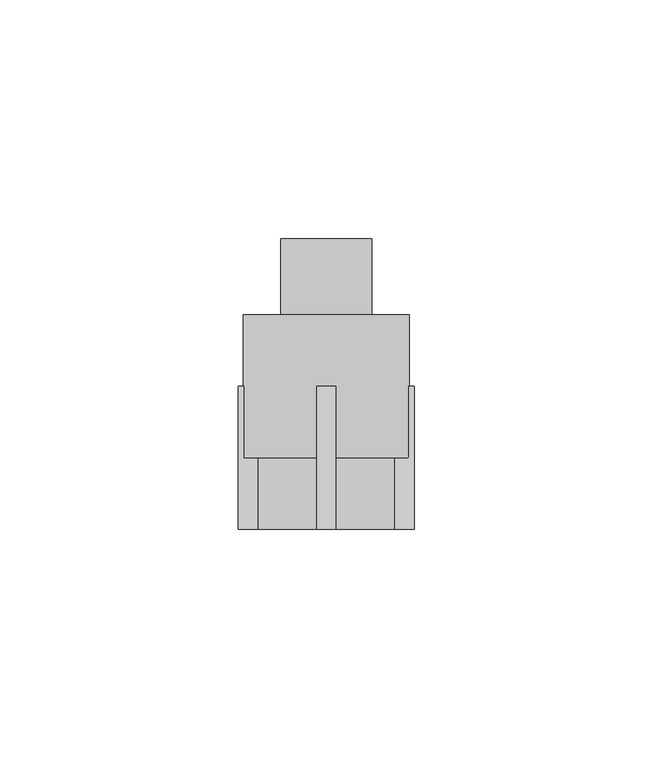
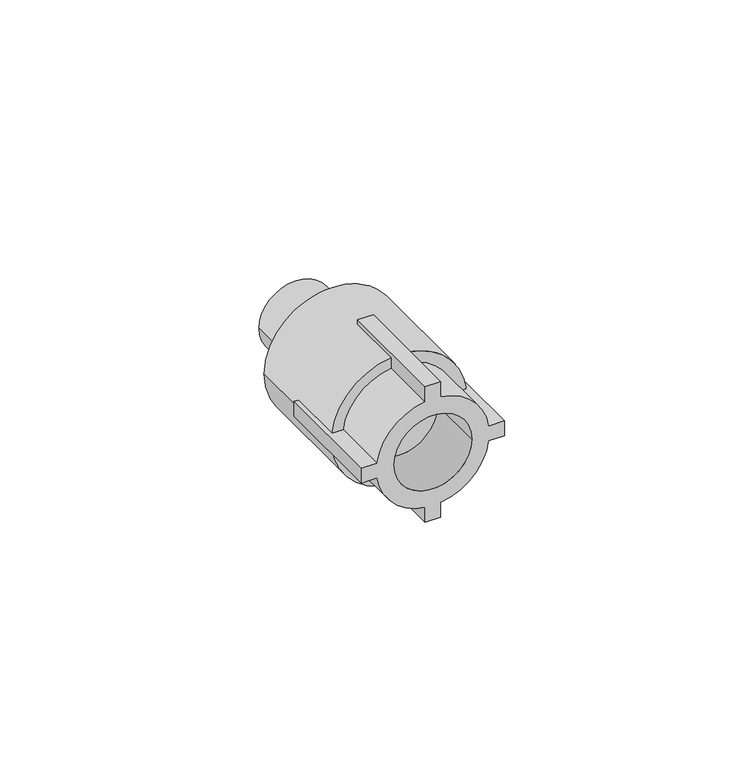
"""IFC4 building model written with IfcOpenShell, lengths in millimetres: pipe fitting geometry, EGB_VASEN_ PPR_Entronque rosca macho WXR101 : Entronque rosca macho WXR101."""

from ifc_helpers import new_model, si_unit, point, frame, origin, origin_2d, place, context, project, spatial, polyline, circle_curve, trimmed, segment, composite_curve, outline, extrude, source, transform, mapped, element, save
from ifc_brep_helpers import plane_surface, cylinder_surface, revolved_surface, advanced_brep


def pipe_fitting_2b10a2c7(model_context):
    return source(origin(), model_context, "Body", "SolidModel", [
        advanced_brep(
        [(2.0, -15.0, 18.4), (-2.0, -15.0, 18.4), (-2.0, -15.0, 14.3614066), (-14.3614066, -15.0, 2.0), (-18.4, -15.0, 2.0), (-18.4, -15.0, -2.0), (-14.3614066, -15.0, -2.0), (-2.0, -15.0, -14.3614066), (-2.0, -15.0, -18.4), (2.0, -15.0, -18.4), (2.0, -15.0, -14.3614066), (14.3614066, -15.0, -2.0), (18.4, -15.0, -2.0), (18.4, -15.0, 2.0), (14.3614066, -15.0, 2.0), (2.0, -15.0, 14.3614066), (-10.0, -15.0, 0.0), (10.0, -15.0, 0.0), (-2.0, 15.0, 18.4), (2.0, 15.0, 18.4), (2.0, 15.0, 17.2846753), (-2.0, 15.0, 17.2846753), (2.0, 15.0, -18.4), (-2.0, 15.0, -18.4), (-2.0, 15.0, -17.2846753), (2.0, 15.0, -17.2846753), (18.4, 15.0, 2.0), (18.4, 15.0, -2.0), (17.2846753, 15.0, -2.0), (17.4, 15.0, 0.0), (17.2846753, 15.0, 2.0), (-18.4, 15.0, -2.0), (-18.4, 15.0, 2.0), (-17.2846753, 15.0, 2.0), (-17.4, 15.0, 0.0), (-17.2846753, 15.0, -2.0), (2.0, 0.0, 14.3614066), (2.0, 0.0, 17.2846753), (-2.0, 0.0, 17.2846753), (-2.0, 0.0, 14.3614066), (2.0, 0.0, -17.2846753), (2.0, 0.0, -14.3614066), (-2.0, 0.0, -14.3614066), (-2.0, 0.0, -17.2846753), (14.3614066, 0.0, -2.0), (17.2846753, 0.0, -2.0), (17.2846753, 0.0, 2.0), (14.3614066, 0.0, 2.0), (-17.2846753, 0.0, -2.0), (-14.3614066, 0.0, -2.0), (-14.3614066, 0.0, 2.0), (-17.2846753, 0.0, 2.0), (-10.0, 0.0, 0.0), (10.0, 0.0, 0.0), (-17.4, 30.0, 0.0), (17.4, 30.0, 0.0)],
        [
            (0, 1),
            (1, 2),
            (2, 3, circle_curve(frame((0.0, -15.0, 0.0), z_axis=(0.0, -1.0, 0.0), x_axis=(1.0, 0.0, 0.0)), 14.5)),
            (3, 4),
            (4, 5),
            (5, 6),
            (6, 7, circle_curve(frame((0.0, -15.0, 0.0), z_axis=(0.0, -1.0, 0.0), x_axis=(1.0, 0.0, 0.0)), 14.5)),
            (7, 8),
            (8, 9),
            (9, 10),
            (10, 11, circle_curve(frame((0.0, -15.0, 0.0), z_axis=(0.0, -1.0, 0.0), x_axis=(1.0, 0.0, 0.0)), 14.5)),
            (11, 12),
            (12, 13),
            (13, 14),
            (14, 15, circle_curve(frame((0.0, -15.0, 0.0), z_axis=(0.0, -1.0, 0.0), x_axis=(1.0, 0.0, 0.0)), 14.5)),
            (15, 0),
            (16, 17, circle_curve(frame((0.0, -15.0, 0.0), z_axis=(0.0, 1.0, 0.0), x_axis=(1.0, 0.0, 0.0)), 10.0)),
            (17, 16, circle_curve(frame((0.0, -15.0, 0.0), z_axis=(0.0, 1.0, 0.0), x_axis=(1.0, 0.0, 0.0)), 10.0)),
            (18, 19),
            (19, 20),
            (20, 21, circle_curve(frame((0.0, 15.0, 0.0), z_axis=(0.0, -1.0, 0.0), x_axis=(1.0, 0.0, 0.0)), 17.4)),
            (21, 18),
            (22, 23),
            (23, 24),
            (24, 25, circle_curve(frame((0.0, 15.0, 0.0), z_axis=(0.0, -1.0, 0.0), x_axis=(1.0, 0.0, 0.0)), 17.4)),
            (25, 22),
            (26, 27),
            (27, 28),
            (28, 29, circle_curve(frame((0.0, 15.0, 0.0), z_axis=(0.0, -1.0, 0.0), x_axis=(1.0, 0.0, 0.0)), 17.4)),
            (29, 30, circle_curve(frame((0.0, 15.0, 0.0), z_axis=(0.0, -1.0, 0.0), x_axis=(1.0, 0.0, 0.0)), 17.4)),
            (30, 26),
            (31, 32),
            (32, 33),
            (33, 34, circle_curve(frame((0.0, 15.0, 0.0), z_axis=(0.0, -1.0, 0.0), x_axis=(1.0, 0.0, 0.0)), 17.4)),
            (34, 35, circle_curve(frame((0.0, 15.0, 0.0), z_axis=(0.0, -1.0, 0.0), x_axis=(1.0, 0.0, 0.0)), 17.4)),
            (35, 31),
            (19, 0),
            (15, 36),
            (36, 37),
            (37, 20),
            (18, 1),
            (21, 38),
            (38, 39),
            (39, 2),
            (8, 23),
            (22, 9),
            (25, 40),
            (40, 41),
            (41, 10),
            (7, 42),
            (42, 43),
            (43, 24),
            (27, 12),
            (11, 44),
            (44, 45),
            (45, 28),
            (26, 13),
            (30, 46),
            (46, 47),
            (47, 14),
            (5, 31),
            (35, 48),
            (48, 49),
            (49, 6),
            (32, 4),
            (3, 50),
            (50, 51),
            (51, 33),
            (49, 42, circle_curve(frame((0.0, 0.0, 0.0), z_axis=(0.0, -1.0, 0.0), x_axis=(1.0, 0.0, 0.0)), 14.5)),
            (41, 44, circle_curve(frame((0.0, 0.0, 0.0), z_axis=(0.0, -1.0, 0.0), x_axis=(1.0, 0.0, 0.0)), 14.5)),
            (39, 50, circle_curve(frame((0.0, 0.0, 0.0), z_axis=(0.0, -1.0, 0.0), x_axis=(1.0, 0.0, 0.0)), 14.5)),
            (47, 36, circle_curve(frame((0.0, 0.0, 0.0), z_axis=(0.0, -1.0, 0.0), x_axis=(1.0, 0.0, 0.0)), 14.5)),
            (16, 52),
            (52, 53, circle_curve(frame((0.0, 0.0, 0.0), z_axis=(0.0, 1.0, 0.0), x_axis=(1.0, 0.0, 0.0)), 10.0)),
            (53, 17),
            (53, 52, circle_curve(frame((0.0, 0.0, 0.0), z_axis=(0.0, 1.0, 0.0), x_axis=(1.0, 0.0, 0.0)), 10.0)),
            (40, 45, circle_curve(frame((0.0, 0.0, 0.0), z_axis=(0.0, -1.0, 0.0), x_axis=(1.0, 0.0, 0.0)), 17.4)),
            (48, 43, circle_curve(frame((0.0, 0.0, 0.0), z_axis=(0.0, -1.0, 0.0), x_axis=(1.0, 0.0, 0.0)), 17.4)),
            (46, 37, circle_curve(frame((0.0, 0.0, 0.0), z_axis=(0.0, -1.0, 0.0), x_axis=(1.0, 0.0, 0.0)), 17.4)),
            (38, 51, circle_curve(frame((0.0, 0.0, 0.0), z_axis=(0.0, -1.0, 0.0), x_axis=(1.0, 0.0, 0.0)), 17.4)),
            (54, 55, circle_curve(frame((0.0, 30.0, 0.0), z_axis=(0.0, 1.0, 0.0), x_axis=(1.0, 0.0, 0.0)), 17.4)),
            (55, 54, circle_curve(frame((0.0, 30.0, 0.0), z_axis=(0.0, 1.0, 0.0), x_axis=(1.0, 0.0, 0.0)), 17.4)),
            (55, 29),
            (34, 54),
        ],
        [
            plane_surface(frame((0.0, -15.0, 0.0), z_axis=(0.0, -1.0, 0.0), x_axis=(0.0, 0.0, 1.0))),
            plane_surface(frame((0.0, 15.0, 0.0), z_axis=(0.0, 1.0, 0.0), x_axis=(0.0, 0.0, 1.0))),
            plane_surface(frame((2.0, -15.0, 13.5), z_axis=(1.0, 0.0, 0.0), x_axis=(0.0, 1.0, 0.0))),
            plane_surface(frame((2.0, -15.0, 18.4), z_axis=(0.0, 0.0, 1.0), x_axis=(0.0, 1.0, 0.0))),
            plane_surface(frame((-2.0, -15.0, 18.4), z_axis=(-1.0, 0.0, 0.0), x_axis=(0.0, 1.0, 0.0))),
            plane_surface(frame((-2.0, -15.0, -18.4), z_axis=(0.0, 0.0, -1.0), x_axis=(0.0, 1.0, 0.0))),
            plane_surface(frame((2.0, -15.0, -18.4), z_axis=(1.0, 0.0, 0.0), x_axis=(0.0, 1.0, 0.0))),
            plane_surface(frame((-2.0, -15.0, -13.5), z_axis=(-1.0, 0.0, 0.0), x_axis=(0.0, 1.0, 0.0))),
            plane_surface(frame((13.5, -15.0, -2.0), z_axis=(0.0, 0.0, -1.0), x_axis=(0.0, 1.0, 0.0))),
            plane_surface(frame((18.4, -15.0, -2.0), z_axis=(1.0, 0.0, 0.0), x_axis=(0.0, 1.0, 0.0))),
            plane_surface(frame((18.4, -15.0, 2.0), z_axis=(0.0, 0.0, 1.0), x_axis=(0.0, 1.0, 0.0))),
            plane_surface(frame((-18.4, -15.0, -2.0), z_axis=(0.0, 0.0, -1.0), x_axis=(0.0, 1.0, 0.0))),
            plane_surface(frame((-13.5, -15.0, 2.0), z_axis=(0.0, 0.0, 1.0), x_axis=(0.0, 1.0, 0.0))),
            plane_surface(frame((-18.4, -15.0, 2.0), z_axis=(-1.0, 0.0, 0.0), x_axis=(0.0, 1.0, 0.0))),
            cylinder_surface(frame((0.0, 0.0, 0.0), z_axis=(0.0, -1.0, 0.0), x_axis=(1.0, 0.0, 0.0)), 14.5),
            revolved_surface(polyline([(10.0, 0.0, 0.0), (10.0, -15.0, 0.0)]), (0.0, 0.0, 0.0), (0.0, 1.0, 0.0)),
            plane_surface(frame((17.4, 0.0, 0.0), z_axis=(0.0, -1.0, 0.0), x_axis=(0.0, 0.0, 1.0))),
            plane_surface(frame((17.4, 30.0, 0.0), z_axis=(0.0, 1.0, 0.0), x_axis=(0.0, 0.0, -1.0))),
            cylinder_surface(frame((0.0, 30.0, 0.0), z_axis=(0.0, -1.0, 0.0), x_axis=(1.0, 0.0, 0.0)), 17.4),
        ],
        [
            (0, [[1, 2, 3, 4, 5, 6, 7, 8, 9, 10, 11, 12, 13, 14, 15, 16], [17, 18]]),
            (1, [[19, 20, 21, 22]]),
            (1, [[23, 24, 25, 26]]),
            (1, [[27, 28, 29, 30, 31]]),
            (1, [[32, 33, 34, 35, 36]]),
            (2, [[37, -16, 38, 39, 40, -20]]),
            (3, [[-1, -37, -19, 41]]),
            (4, [[-41, -22, 42, 43, 44, -2]]),
            (5, [[-9, 45, -23, 46]]),
            (6, [[-46, -26, 47, 48, 49, -10]]),
            (7, [[-45, -8, 50, 51, 52, -24]]),
            (8, [[53, -12, 54, 55, 56, -28]]),
            (9, [[-13, -53, -27, 57]]),
            (10, [[-57, -31, 58, 59, 60, -14]]),
            (11, [[61, -36, 62, 63, 64, -6]]),
            (12, [[65, -4, 66, 67, 68, -33]]),
            (13, [[-5, -65, -32, -61]]),
            (14, [[-7, -64, 69, -50]]),
            (14, [[-11, -49, 70, -54]]),
            (14, [[-3, -44, 71, -66]]),
            (14, [[-15, -60, 72, -38]]),
            (15, [[-17, 73, 74, 75]]),
            (15, [[-18, -75, 76, -73]]),
            (16, [[-74, -76]]),
            (16, [[77, -55, -70, -48]]),
            (16, [[78, -51, -69, -63]]),
            (16, [[79, -39, -72, -59]]),
            (16, [[80, -67, -71, -43]]),
            (17, [[81, 82]]),
            (18, [[-82, 83, -29, -56, -77, -47, -25, -52, -78, -62, -35, 84]]),
            (18, [[-81, -84, -34, -68, -80, -42, -21, -40, -79, -58, -30, -83]]),
        ],
    ),
        extrude(outline(composite_curve([segment(trimmed(circle_curve(origin_2d(), 9.525), [point((0.0, -9.525))], [point((0.0, 9.525))], False, "CARTESIAN"), True, "CONTINUOUS"), segment(trimmed(circle_curve(origin_2d(), 9.525), [point((0.0, 9.525))], [point((0.0, -9.525))], False, "CARTESIAN"), True, "CONTINUOUS")], self_intersect=False)), frame((0.0, 15.0, 0.0), z_axis=(0.0, 1.0, 0.0), x_axis=(0.0, 0.0, 1.0)), (0.0, 0.0, 1.0), 31.0),
    ])


if __name__ == "__main__":
    model = new_model("IFC4")
    model_context = context("Model", 3, world=origin())
    ifc_project = project(units=[si_unit("LENGTHUNIT", "METRE", prefix="MILLI")], contexts=[model_context])
    site = spatial("IfcSite", under=ifc_project)
    building = spatial("IfcBuilding", under=site)
    placement = place(None, origin())
    pipe_fitting_shape = pipe_fitting_2b10a2c7(model_context)
    element("IfcPipeFitting", 1, ObjectType="EGB_VASEN_ PPR_Entronque rosca macho WXR101 : Entronque rosca macho WXR101", at=placement, inside=building, context=model_context, shape_type="MappedRepresentation", body=[
        mapped(pipe_fitting_shape, transform((0.0, 0.0, 0.0), x_axis=(1.0, 0.0, 0.0), y_axis=(0.0, 1.0, 0.0), z_axis=(0.0, 0.0, 1.0))),
    ])
    save(model, "model.ifc")
